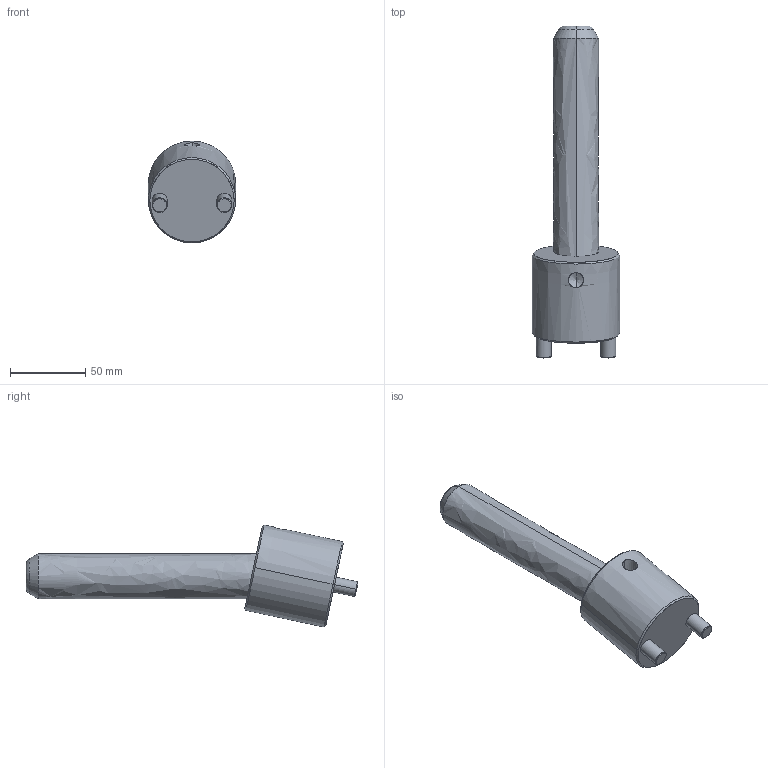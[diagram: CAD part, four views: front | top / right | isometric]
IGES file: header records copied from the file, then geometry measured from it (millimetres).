
Start section: START RECORD GO HERE.
Global section: file name: CI1230150.igs; native system: DASSAULT SYSTEMES CATIA V5 R20 - www.3ds.com; preprocessor: CATIA Version 5 Release 20 ; author: r.borello; organization: CFTORINO; date: 20190621.160943; units: millimetre
Bounding box: 58 x 220.65 x 67.75 mm (x, y, z)
Surface area: 40245.7 mm2 (no closed solid volume)
Topology: 0 solids, 0 shells, 39 faces, 162 edges, 160 vertices
Faces by surface type: revolution 32, plane 7
